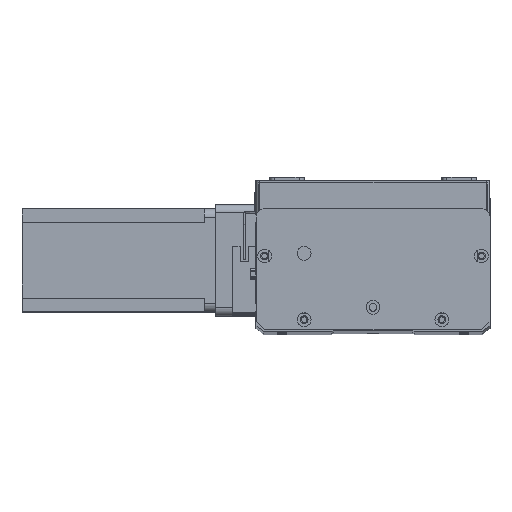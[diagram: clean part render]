
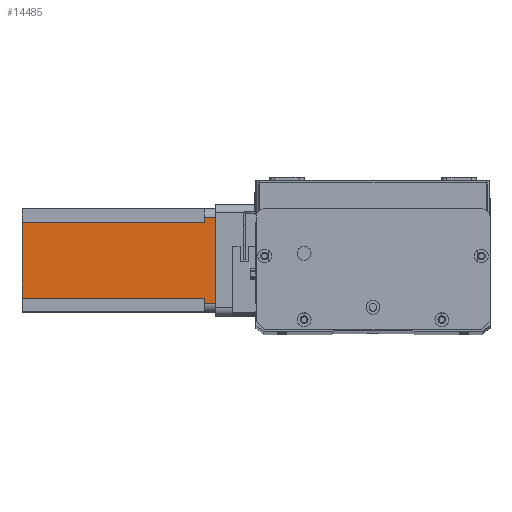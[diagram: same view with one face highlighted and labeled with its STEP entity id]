
A CAD part, top view. The second image highlights one B-rep face of the part: STEP entity #14485.
In plain terms, the highlighted planar face has unit normal (0, 0, 1) as drawn and (0, -1, 0) by its records, which use the part's own axes.
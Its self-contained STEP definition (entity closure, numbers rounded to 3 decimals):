
#356 = ORIENTED_EDGE ( 'NONE', *, *, #4453, .T. ) ;
#511 = CARTESIAN_POINT ( 'NONE',  ( 52., 0., -112.5 ) ) ;
#655 = VECTOR ( 'NONE', #9602, 1000. ) ;
#2789 = VERTEX_POINT ( 'NONE', #511 ) ;
#3374 = CARTESIAN_POINT ( 'NONE',  ( 55., 0., 0. ) ) ;
#3378 = VECTOR ( 'NONE', #11371, 1000. ) ;
#4032 = DIRECTION ( 'NONE',  ( 1., 0., 0. ) ) ;
#4138 = VERTEX_POINT ( 'NONE', #12401 ) ;
#4453 = EDGE_CURVE ( 'NONE', #24853, #21862, #6859, .T. ) ;
#4921 = CARTESIAN_POINT ( 'NONE',  ( 8., 0., -6.5 ) ) ;
#5684 = DIRECTION ( 'NONE',  ( 0., -1., 0. ) ) ;
#5731 = CARTESIAN_POINT ( 'NONE',  ( 8., 0., -6.5 ) ) ;
#6546 = ORIENTED_EDGE ( 'NONE', *, *, #9002, .T. ) ;
#6859 = LINE ( 'NONE', #23791, #22024 ) ;
#6898 = DIRECTION ( 'NONE',  ( 0., 0., 1. ) ) ;
#7470 = LINE ( 'NONE', #5731, #12103 ) ;
#7491 = EDGE_CURVE ( 'NONE', #21726, #17889, #14856, .T. ) ;
#7600 = CARTESIAN_POINT ( 'NONE',  ( 0., 0., 0. ) ) ;
#7818 = DIRECTION ( 'NONE',  ( 1., 0., 0. ) ) ;
#7898 = CARTESIAN_POINT ( 'NONE',  ( 52., 0., -6.5 ) ) ;
#8073 = ORIENTED_EDGE ( 'NONE', *, *, #12576, .T. ) ;
#8178 = VECTOR ( 'NONE', #8231, 1000. ) ;
#8231 = DIRECTION ( 'NONE',  ( 0., 0., -1. ) ) ;
#8283 = VECTOR ( 'NONE', #7818, 1000. ) ;
#8728 = CARTESIAN_POINT ( 'NONE',  ( 52., 0., -112.5 ) ) ;
#8987 = VECTOR ( 'NONE', #6898, 1000. ) ;
#9002 = EDGE_CURVE ( 'NONE', #21726, #2789, #24117, .T. ) ;
#9602 = DIRECTION ( 'NONE',  ( 1., 0., 0. ) ) ;
#9741 = CARTESIAN_POINT ( 'NONE',  ( 0., 0., -112.5 ) ) ;
#10226 = EDGE_CURVE ( 'NONE', #17889, #4138, #7470, .T. ) ;
#11371 = DIRECTION ( 'NONE',  ( 0., 0., 1. ) ) ;
#11789 = DIRECTION ( 'NONE',  ( -1., 0., 0. ) ) ;
#11968 = ORIENTED_EDGE ( 'NONE', *, *, #19449, .F. ) ;
#12103 = VECTOR ( 'NONE', #11789, 1000. ) ;
#12401 = CARTESIAN_POINT ( 'NONE',  ( 5., 0., -6.5 ) ) ;
#12454 = VECTOR ( 'NONE', #20549, 1000. ) ;
#12576 = EDGE_CURVE ( 'NONE', #21862, #14414, #24434, .T. ) ;
#12773 = AXIS2_PLACEMENT_3D ( 'NONE', #17521, #5684, #19499 ) ;
#12841 = CARTESIAN_POINT ( 'NONE',  ( 5., 0., 0. ) ) ;
#14239 = ORIENTED_EDGE ( 'NONE', *, *, #7491, .F. ) ;
#14386 = FACE_OUTER_BOUND ( 'NONE', #19547, .T. ) ;
#14414 = VERTEX_POINT ( 'NONE', #3374 ) ;
#14485 = ADVANCED_FACE ( 'NONE', ( #14386 ), #25421, .T. ) ;
#14856 = LINE ( 'NONE', #20621, #8987 ) ;
#14946 = ORIENTED_EDGE ( 'NONE', *, *, #15344, .T. ) ;
#15344 = EDGE_CURVE ( 'NONE', #21822, #4138, #19303, .T. ) ;
#17521 = CARTESIAN_POINT ( 'NONE',  ( 0., 0., -112.5 ) ) ;
#17889 = VERTEX_POINT ( 'NONE', #4921 ) ;
#18467 = EDGE_CURVE ( 'NONE', #24853, #2789, #22397, .T. ) ;
#19303 = LINE ( 'NONE', #22088, #8178 ) ;
#19449 = EDGE_CURVE ( 'NONE', #21822, #14414, #21700, .T. ) ;
#19499 = DIRECTION ( 'NONE',  ( 0., 0., -1. ) ) ;
#19547 = EDGE_LOOP ( 'NONE', ( #356, #8073, #11968, #14946, #25328, #14239, #6546, #21711 ) ) ;
#20549 = DIRECTION ( 'NONE',  ( 0., 0., -1. ) ) ;
#20621 = CARTESIAN_POINT ( 'NONE',  ( 8., 0., -112.5 ) ) ;
#21700 = LINE ( 'NONE', #7600, #655 ) ;
#21711 = ORIENTED_EDGE ( 'NONE', *, *, #18467, .F. ) ;
#21726 = VERTEX_POINT ( 'NONE', #24398 ) ;
#21822 = VERTEX_POINT ( 'NONE', #12841 ) ;
#21862 = VERTEX_POINT ( 'NONE', #22926 ) ;
#22024 = VECTOR ( 'NONE', #4032, 1000. ) ;
#22088 = CARTESIAN_POINT ( 'NONE',  ( 5., 0., -112.5 ) ) ;
#22397 = LINE ( 'NONE', #8728, #12454 ) ;
#22926 = CARTESIAN_POINT ( 'NONE',  ( 55., 0., -6.5 ) ) ;
#23276 = CARTESIAN_POINT ( 'NONE',  ( 55., 0., -112.5 ) ) ;
#23791 = CARTESIAN_POINT ( 'NONE',  ( 52., 0., -6.5 ) ) ;
#24117 = LINE ( 'NONE', #9741, #8283 ) ;
#24398 = CARTESIAN_POINT ( 'NONE',  ( 8., 0., -112.5 ) ) ;
#24434 = LINE ( 'NONE', #23276, #3378 ) ;
#24853 = VERTEX_POINT ( 'NONE', #7898 ) ;
#25328 = ORIENTED_EDGE ( 'NONE', *, *, #10226, .F. ) ;
#25421 = PLANE ( 'NONE',  #12773 ) ;
